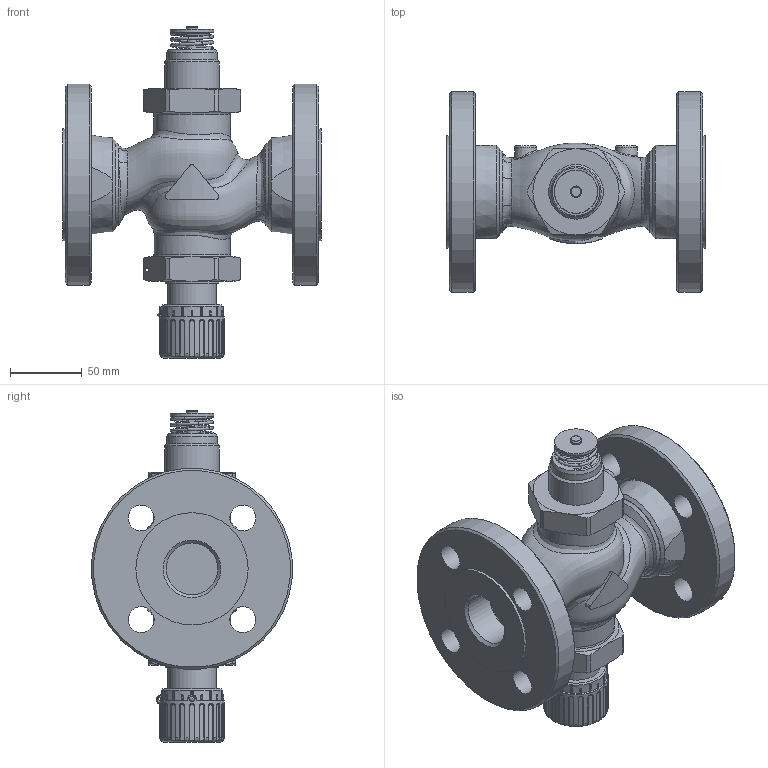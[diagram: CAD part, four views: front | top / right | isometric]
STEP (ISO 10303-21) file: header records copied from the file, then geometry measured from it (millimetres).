
FILE_DESCRIPTION(/* description */ (''),/* implementation_level */ '2;1');
FILE_NAME(/* name */ 'rv122p_dn32_F.stp',/* time_stamp */ '2012-11-05T15:41:23+01:00',/* author */ ('JENIK'),/* organization */ ('LDM'),/* preprocessor_version */ 'ST-DEVELOPER v11',/* originating_system */ 'SIEMENS PLM Software NX 7.0',/* authorisation */ '');
FILE_SCHEMA (('CONFIG_CONTROL_DESIGN'));
Length unit declared in the file: millimetre
Products named in the file (1): jeniA85B0dr8
Bounding box: 180 x 139.47 x 230.8 mm (x, y, z)
Volume: 532858.2 mm3; surface area: 161887.3 mm2
Topology: 2 solids, 3 shells, 597 faces, 1475 edges, 906 vertices
Faces by surface type: cylinder 214, plane 149, bspline 99, torus 72, cone 62, sphere 1
Full cylindrical faces by diameter (mm): 2 x1, 2.5 x1, 8 x2, 18 x8, 24.5 x1, 30 x1, 33.8 x1, 35 x1, 36 x2, 37 x1, 38 x1, 43 x1, 53 x2, 56.656 x2, 59.614 x2, 60 x2, 78 x2, 140 x2
Entity records: 29656 total; most frequent: CARTESIAN_POINT 16921, ORIENTED_EDGE 2668, DIRECTION 2452, EDGE_CURVE 1334, AXIS2_PLACEMENT_3D 1036, VERTEX_POINT 860, EDGE_LOOP 740, ADVANCED_FACE 597
